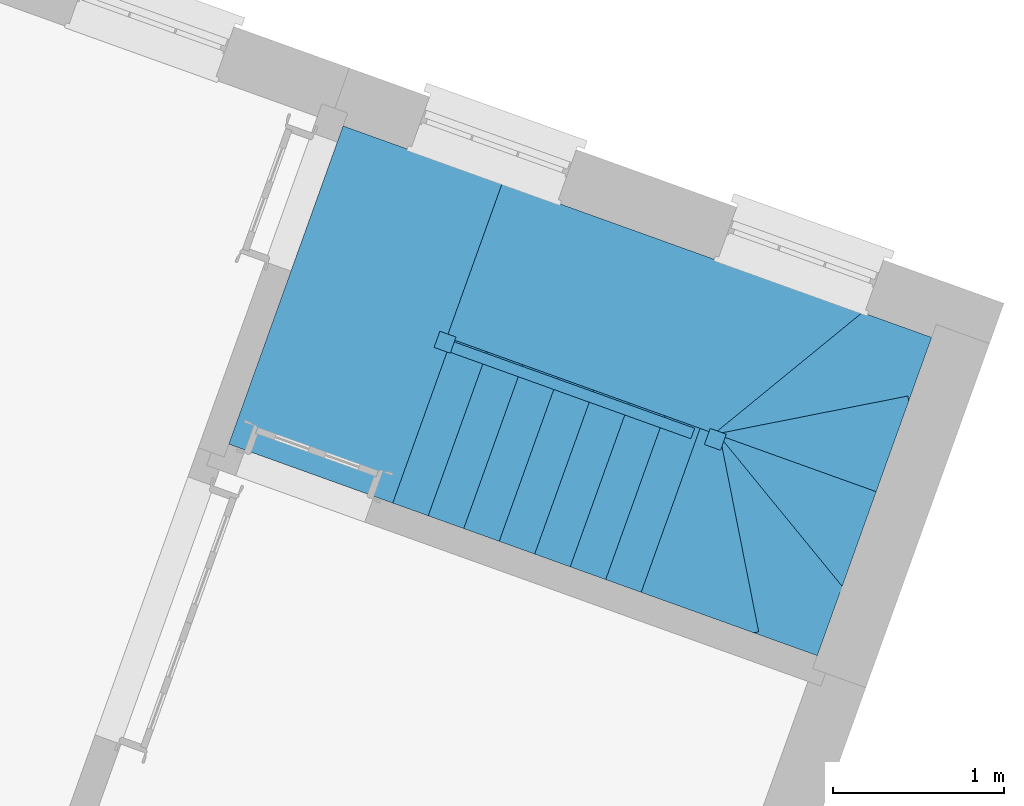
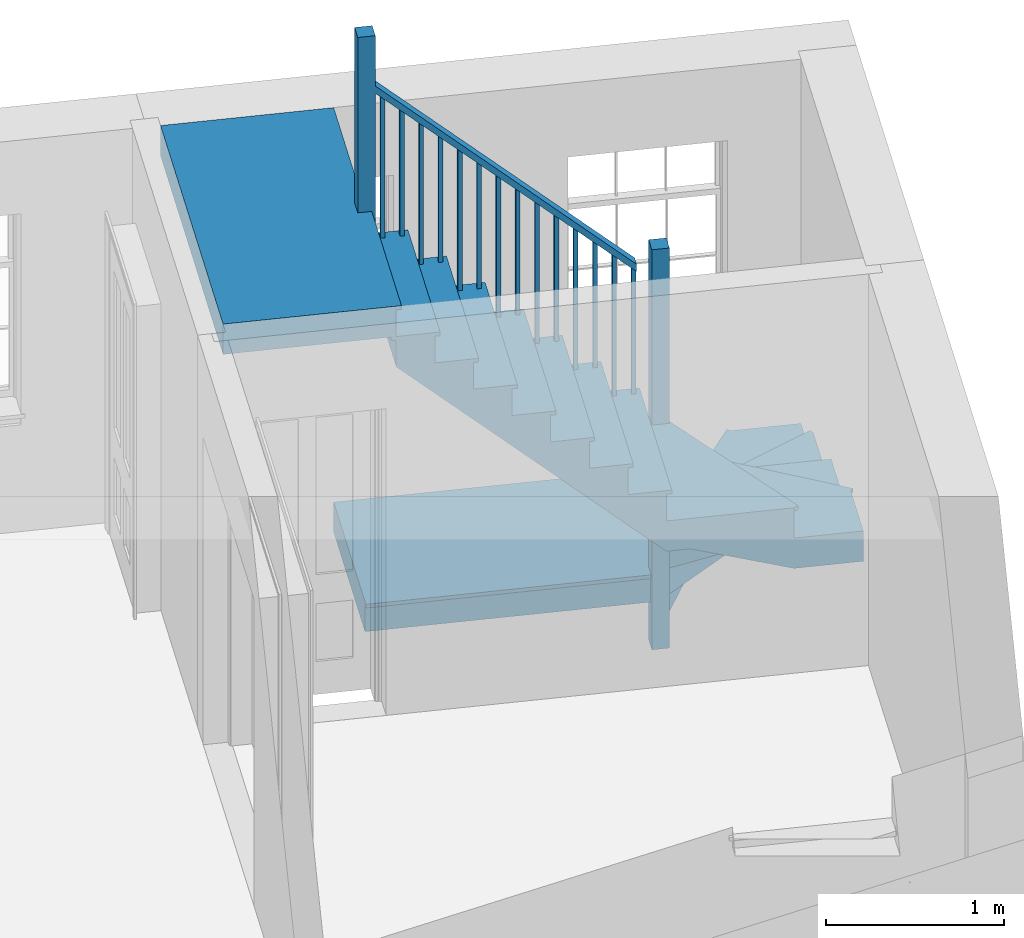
# One storey, part 4 of 4: 1 stair.
"""IFC4 building model written with IfcOpenShell, lengths in metres."""

from ifc_helpers import new_model, si_unit, frame, origin, origin_with_axes, place, context, subcontext, project, spatial, faceted_brep, element, save


model = new_model("IFC4")

# Units and contexts
model_context = context("Model", 3, world=origin_with_axes())
body_context = subcontext(model_context, "Body", "Model", "MODEL_VIEW")
ifc_project = project(units=[si_unit("PLANEANGLEUNIT", "RADIAN"), si_unit("MASSUNIT", "GRAM", prefix="KILO"), si_unit("FORCEUNIT", "NEWTON", prefix="KILO"), si_unit("LENGTHUNIT", "METRE"), si_unit("AREAUNIT", "SQUARE_METRE"), si_unit("VOLUMEUNIT", "CUBIC_METRE")], contexts=[model_context, model_context])

# Sites, building, storey
site_1_placement = place(None, origin_with_axes())
site_1 = spatial("IfcSite", under=ifc_project, at=site_1_placement, Name="Tamar")
site_2_placement = place(site_1_placement, origin_with_axes())
site_2 = spatial("IfcSite", under=site_1, at=site_2_placement, Name="Site plot-21", CompositionType="ELEMENT")
building_placement = place(None, origin_with_axes())
building = spatial("IfcBuilding", under=site_2, at=building_placement, Name="Building plot-21", CompositionType="ELEMENT")
storey_placement = place(None, frame((0.0, 0.0, 29.6), z_axis=(0.0, 0.0, 1.0), x_axis=(1.0, 0.0, 0.0)))
storey = spatial("IfcBuildingStorey", under=building, at=storey_placement, Name="plot-21 1", CompositionType="ELEMENT", Elevation=29.6)

# Stair
stair_placement = place(None, origin())
element("IfcStair", 1, at=stair_placement, inside=storey, Name="Stair", PredefinedType="NOTDEFINED", context=body_context, shape_type="Brep", body=[
    faceted_brep([(259.464739, 284.843721, 32.092308), (259.131186, 283.915466, 32.092308), (259.338225, 283.84107, 32.092308), (259.671778, 284.769324, 32.092308), (259.671778, 284.769324, 31.676923), (259.338225, 283.84107, 31.676923), (259.131186, 283.915466, 31.884615), (259.464739, 284.843721, 31.884615)], [[[0, 1, 2, 3]], [[4, 5, 6, 7]], [[7, 6, 1, 0]], [[1, 6, 5, 2]], [[5, 4, 3, 2]], [[3, 4, 7, 0]]]),
    faceted_brep([(259.338225, 283.84107, 32.067308), (259.366457, 283.830925, 32.067308), (259.338225, 283.84107, 32.092308), (259.102953, 283.925611, 32.067308), (259.131186, 283.915466, 32.067308), (259.131186, 283.915466, 32.092308), (259.366457, 283.830925, 32.092308), (259.102953, 283.925611, 32.092308), (259.710155, 284.787412, 32.092308), (259.671778, 284.769324, 32.092308), (259.671778, 284.769324, 32.067308), (259.710155, 284.787412, 32.067308), (259.446651, 284.882098, 32.092308), (259.464739, 284.843721, 32.092308), (259.464739, 284.843721, 32.067308), (259.446651, 284.882098, 32.067308)], [[[0, 1, 2]], [[3, 4, 5]], [[1, 6, 2]], [[7, 3, 5]], [[2, 6, 8, 9]], [[0, 2, 9, 10]], [[1, 0, 10, 11]], [[6, 1, 11, 8]], [[9, 8, 12, 13]], [[10, 9, 13, 14]], [[11, 10, 14, 15]], [[8, 11, 15, 12]], [[13, 12, 7, 5]], [[14, 13, 5, 4]], [[15, 14, 4, 3]], [[12, 15, 3, 7]]]),
    faceted_brep([(259.671778, 284.769324, 32.992308), (259.648251, 284.777779, 32.992308), (259.639796, 284.754251, 32.992308), (259.663324, 284.745797, 32.992308), (259.663324, 284.745797, 32.092308), (259.639796, 284.754251, 32.092308), (259.648251, 284.777779, 32.092308), (259.671778, 284.769324, 32.092308)], [[[0, 1, 2, 3]], [[4, 5, 6, 7]], [[7, 6, 1, 0]], [[6, 5, 2, 1]], [[5, 4, 3, 2]], [[4, 7, 0, 3]]]),
    faceted_brep([(259.568258, 284.806522, 33.096154), (259.544731, 284.814977, 33.096154), (259.536277, 284.791449, 33.096154), (259.559804, 284.782995, 33.096154), (259.559804, 284.782995, 32.092308), (259.536277, 284.791449, 32.092308), (259.544731, 284.814977, 32.092308), (259.568258, 284.806522, 32.092308)], [[[0, 1, 2, 3]], [[4, 5, 6, 7]], [[7, 6, 1, 0]], [[6, 5, 2, 1]], [[5, 4, 3, 2]], [[4, 7, 0, 3]]]),
    faceted_brep([(259.65656, 284.726975, 32.942308), (259.678541, 284.788146, 32.942308), (259.678541, 284.788146, 32.992308), (259.65656, 284.726975, 32.992308), (259.471502, 284.862542, 33.15), (259.449521, 284.801372, 33.15), (259.449521, 284.801372, 33.2), (259.471502, 284.862542, 33.2)], [[[0, 1, 2, 3]], [[4, 5, 6, 7]], [[0, 5, 4, 1]], [[3, 2, 7, 6]], [[0, 3, 6, 5]], [[2, 1, 4, 7]]]),
    faceted_brep([(259.671778, 284.769324, 31.884615), (259.338225, 283.84107, 31.884615), (259.545264, 283.766674, 31.884615), (259.878817, 284.694928, 31.884615), (259.878817, 284.694928, 31.469231), (259.545264, 283.766674, 31.469231), (259.338225, 283.84107, 31.676923), (259.671778, 284.769324, 31.676923)], [[[0, 1, 2, 3]], [[4, 5, 6, 7]], [[7, 6, 1, 0]], [[1, 6, 5, 2]], [[5, 4, 3, 2]], [[3, 4, 7, 0]]]),
    faceted_brep([(259.573497, 283.756529, 31.859615), (259.573497, 283.756529, 31.884615), (259.545264, 283.766674, 31.859615), (259.309992, 283.851215, 31.884615), (259.309992, 283.851215, 31.859615), (259.338225, 283.84107, 31.859615), (259.545264, 283.766674, 31.884615), (259.338225, 283.84107, 31.884615), (259.917194, 284.713016, 31.884615), (259.878817, 284.694928, 31.884615), (259.878817, 284.694928, 31.859615), (259.917194, 284.713016, 31.859615), (259.65369, 284.807702, 31.884615), (259.671778, 284.769324, 31.884615), (259.671778, 284.769324, 31.859615), (259.65369, 284.807702, 31.859615)], [[[0, 1, 2]], [[3, 4, 5]], [[2, 1, 6]], [[3, 5, 7]], [[6, 1, 8, 9]], [[2, 6, 9, 10]], [[0, 2, 10, 11]], [[1, 0, 11, 8]], [[9, 8, 12, 13]], [[10, 9, 13, 14]], [[11, 10, 14, 15]], [[8, 11, 15, 12]], [[13, 12, 3, 7]], [[14, 13, 7, 5]], [[15, 14, 5, 4]], [[12, 15, 4, 3]]]),
    faceted_brep([(259.878817, 284.694928, 32.784615), (259.85529, 284.703382, 32.784615), (259.846836, 284.679855, 32.784615), (259.870363, 284.671401, 32.784615), (259.870363, 284.671401, 31.884615), (259.846836, 284.679855, 31.884615), (259.85529, 284.703382, 31.884615), (259.878817, 284.694928, 31.884615)], [[[0, 1, 2, 3]], [[4, 5, 6, 7]], [[7, 6, 1, 0]], [[6, 5, 2, 1]], [[5, 4, 3, 2]], [[4, 7, 0, 3]]]),
    faceted_brep([(259.775297, 284.732126, 32.888462), (259.75177, 284.74058, 32.888462), (259.743316, 284.717053, 32.888462), (259.766843, 284.708599, 32.888462), (259.766843, 284.708599, 31.884615), (259.743316, 284.717053, 31.884615), (259.75177, 284.74058, 31.884615), (259.775297, 284.732126, 31.884615)], [[[0, 1, 2, 3]], [[4, 5, 6, 7]], [[7, 6, 1, 0]], [[6, 5, 2, 1]], [[5, 4, 3, 2]], [[4, 7, 0, 3]]]),
    faceted_brep([(259.8636, 284.652579, 32.734615), (259.88558, 284.71375, 32.734615), (259.88558, 284.71375, 32.784615), (259.8636, 284.652579, 32.784615), (259.678541, 284.788146, 32.942308), (259.65656, 284.726975, 32.942308), (259.65656, 284.726975, 32.992308), (259.678541, 284.788146, 32.992308)], [[[0, 1, 2, 3]], [[4, 5, 6, 7]], [[0, 5, 4, 1]], [[3, 2, 7, 6]], [[0, 3, 6, 5]], [[2, 1, 4, 7]]]),
    faceted_brep([(259.878817, 284.694928, 31.676923), (259.545264, 283.766674, 31.676923), (259.752303, 283.692277, 31.676923), (260.085856, 284.620532, 31.676923), (260.085856, 284.620532, 31.261538), (259.752303, 283.692277, 31.261538), (259.545264, 283.766674, 31.469231), (259.878817, 284.694928, 31.469231)], [[[0, 1, 2, 3]], [[4, 5, 6, 7]], [[7, 6, 1, 0]], [[1, 6, 5, 2]], [[5, 4, 3, 2]], [[3, 4, 7, 0]]]),
    faceted_brep([(259.752303, 283.692277, 31.651923), (259.780536, 283.682133, 31.651923), (259.752303, 283.692277, 31.676923), (259.517031, 283.776818, 31.651923), (259.545264, 283.766674, 31.651923), (259.545264, 283.766674, 31.676923), (259.780536, 283.682133, 31.676923), (259.517031, 283.776818, 31.676923), (260.124234, 284.63862, 31.676923), (260.085856, 284.620532, 31.676923), (260.085856, 284.620532, 31.651923), (260.124234, 284.63862, 31.651923), (259.860729, 284.733306, 31.676923), (259.878817, 284.694928, 31.676923), (259.878817, 284.694928, 31.651923), (259.860729, 284.733306, 31.651923)], [[[0, 1, 2]], [[3, 4, 5]], [[1, 6, 2]], [[7, 3, 5]], [[2, 6, 8, 9]], [[0, 2, 9, 10]], [[1, 0, 10, 11]], [[6, 1, 11, 8]], [[9, 8, 12, 13]], [[10, 9, 13, 14]], [[11, 10, 14, 15]], [[8, 11, 15, 12]], [[13, 12, 7, 5]], [[14, 13, 5, 4]], [[15, 14, 4, 3]], [[12, 15, 3, 7]]]),
    faceted_brep([(260.085856, 284.620532, 32.576923), (260.062329, 284.628986, 32.576923), (260.053875, 284.605459, 32.576923), (260.077402, 284.597005, 32.576923), (260.077402, 284.597005, 31.676923), (260.053875, 284.605459, 31.676923), (260.062329, 284.628986, 31.676923), (260.085856, 284.620532, 31.676923)], [[[0, 1, 2, 3]], [[4, 5, 6, 7]], [[7, 6, 1, 0]], [[6, 5, 2, 1]], [[5, 4, 3, 2]], [[4, 7, 0, 3]]]),
    faceted_brep([(259.982337, 284.65773, 32.680769), (259.958809, 284.666184, 32.680769), (259.950355, 284.642657, 32.680769), (259.973882, 284.634203, 32.680769), (259.973882, 284.634203, 31.676923), (259.950355, 284.642657, 31.676923), (259.958809, 284.666184, 31.676923), (259.982337, 284.65773, 31.676923)], [[[0, 1, 2, 3]], [[4, 5, 6, 7]], [[7, 6, 1, 0]], [[6, 5, 2, 1]], [[5, 4, 3, 2]], [[4, 7, 0, 3]]]),
    faceted_brep([(260.070639, 284.578183, 32.526923), (260.092619, 284.639354, 32.526923), (260.092619, 284.639354, 32.576923), (260.070639, 284.578183, 32.576923), (259.88558, 284.71375, 32.734615), (259.8636, 284.652579, 32.734615), (259.8636, 284.652579, 32.784615), (259.88558, 284.71375, 32.784615)], [[[0, 1, 2, 3]], [[4, 5, 6, 7]], [[0, 5, 4, 1]], [[3, 2, 7, 6]], [[0, 3, 6, 5]], [[2, 1, 4, 7]]]),
    faceted_brep([(260.085856, 284.620532, 31.469231), (259.752303, 283.692277, 31.469231), (259.959342, 283.617881, 31.469231), (260.292895, 284.546136, 31.469231), (260.292895, 284.546136, 31.053846), (259.959342, 283.617881, 31.053846), (259.752303, 283.692277, 31.261538), (260.085856, 284.620532, 31.261538)], [[[0, 1, 2, 3]], [[4, 5, 6, 7]], [[7, 6, 1, 0]], [[1, 6, 5, 2]], [[5, 4, 3, 2]], [[3, 4, 7, 0]]]),
    faceted_brep([(259.959342, 283.617881, 31.444231), (259.987575, 283.607736, 31.444231), (259.959342, 283.617881, 31.469231), (259.724071, 283.702422, 31.444231), (259.752303, 283.692277, 31.444231), (259.752303, 283.692277, 31.469231), (259.987575, 283.607736, 31.469231), (259.724071, 283.702422, 31.469231), (260.331273, 284.564224, 31.469231), (260.292895, 284.546136, 31.469231), (260.292895, 284.546136, 31.444231), (260.331273, 284.564224, 31.444231), (260.067768, 284.65891, 31.469231), (260.085856, 284.620532, 31.469231), (260.085856, 284.620532, 31.444231), (260.067768, 284.65891, 31.444231)], [[[0, 1, 2]], [[3, 4, 5]], [[1, 6, 2]], [[7, 3, 5]], [[2, 6, 8, 9]], [[0, 2, 9, 10]], [[1, 0, 10, 11]], [[6, 1, 11, 8]], [[9, 8, 12, 13]], [[10, 9, 13, 14]], [[11, 10, 14, 15]], [[8, 11, 15, 12]], [[13, 12, 7, 5]], [[14, 13, 5, 4]], [[15, 14, 4, 3]], [[12, 15, 3, 7]]]),
    faceted_brep([(260.292895, 284.546136, 32.369231), (260.269368, 284.55459, 32.369231), (260.260914, 284.531063, 32.369231), (260.284441, 284.522609, 32.369231), (260.284441, 284.522609, 31.469231), (260.260914, 284.531063, 31.469231), (260.269368, 284.55459, 31.469231), (260.292895, 284.546136, 31.469231)], [[[0, 1, 2, 3]], [[4, 5, 6, 7]], [[7, 6, 1, 0]], [[6, 5, 2, 1]], [[5, 4, 3, 2]], [[4, 7, 0, 3]]]),
    faceted_brep([(260.189376, 284.583334, 32.473077), (260.165849, 284.591788, 32.473077), (260.157394, 284.568261, 32.473077), (260.180922, 284.559807, 32.473077), (260.180922, 284.559807, 31.469231), (260.157394, 284.568261, 31.469231), (260.165849, 284.591788, 31.469231), (260.189376, 284.583334, 31.469231)], [[[0, 1, 2, 3]], [[4, 5, 6, 7]], [[7, 6, 1, 0]], [[6, 5, 2, 1]], [[5, 4, 3, 2]], [[4, 7, 0, 3]]]),
    faceted_brep([(260.277678, 284.503787, 32.319231), (260.299659, 284.564958, 32.319231), (260.299659, 284.564958, 32.369231), (260.277678, 284.503787, 32.369231), (260.092619, 284.639354, 32.526923), (260.070639, 284.578183, 32.526923), (260.070639, 284.578183, 32.576923), (260.092619, 284.639354, 32.576923)], [[[0, 1, 2, 3]], [[4, 5, 6, 7]], [[0, 5, 4, 1]], [[3, 2, 7, 6]], [[0, 3, 6, 5]], [[2, 1, 4, 7]]]),
    faceted_brep([(260.292895, 284.546136, 31.261538), (259.959342, 283.617881, 31.261538), (260.166381, 283.543485, 31.261538), (260.499934, 284.47174, 31.261538), (260.499934, 284.47174, 30.846154), (260.166381, 283.543485, 30.846154), (259.959342, 283.617881, 31.053846), (260.292895, 284.546136, 31.053846)], [[[0, 1, 2, 3]], [[4, 5, 6, 7]], [[7, 6, 1, 0]], [[1, 6, 5, 2]], [[5, 4, 3, 2]], [[3, 4, 7, 0]]]),
    faceted_brep([(260.194614, 283.53334, 31.236538), (260.194614, 283.53334, 31.261538), (260.166381, 283.543485, 31.236538), (259.93111, 283.628026, 31.261538), (259.93111, 283.628026, 31.236538), (259.959342, 283.617881, 31.236538), (260.166381, 283.543485, 31.261538), (259.959342, 283.617881, 31.261538), (260.538312, 284.489828, 31.261538), (260.499934, 284.47174, 31.261538), (260.499934, 284.47174, 31.236538), (260.538312, 284.489828, 31.236538), (260.274808, 284.584514, 31.261538), (260.292895, 284.546136, 31.261538), (260.292895, 284.546136, 31.236538), (260.274808, 284.584514, 31.236538)], [[[0, 1, 2]], [[3, 4, 5]], [[2, 1, 6]], [[3, 5, 7]], [[6, 1, 8, 9]], [[2, 6, 9, 10]], [[0, 2, 10, 11]], [[1, 0, 11, 8]], [[9, 8, 12, 13]], [[10, 9, 13, 14]], [[11, 10, 14, 15]], [[8, 11, 15, 12]], [[13, 12, 3, 7]], [[14, 13, 7, 5]], [[15, 14, 5, 4]], [[12, 15, 4, 3]]]),
    faceted_brep([(260.499934, 284.47174, 32.161538), (260.476407, 284.480194, 32.161538), (260.467953, 284.456667, 32.161538), (260.49148, 284.448213, 32.161538), (260.49148, 284.448213, 31.261538), (260.467953, 284.456667, 31.261538), (260.476407, 284.480194, 31.261538), (260.499934, 284.47174, 31.261538)], [[[0, 1, 2, 3]], [[4, 5, 6, 7]], [[7, 6, 1, 0]], [[6, 5, 2, 1]], [[5, 4, 3, 2]], [[4, 7, 0, 3]]]),
    faceted_brep([(260.396415, 284.508938, 32.265385), (260.372888, 284.517392, 32.265385), (260.364434, 284.493865, 32.265385), (260.387961, 284.485411, 32.265385), (260.387961, 284.485411, 31.261538), (260.364434, 284.493865, 31.261538), (260.372888, 284.517392, 31.261538), (260.396415, 284.508938, 31.261538)], [[[0, 1, 2, 3]], [[4, 5, 6, 7]], [[7, 6, 1, 0]], [[6, 5, 2, 1]], [[5, 4, 3, 2]], [[4, 7, 0, 3]]]),
    faceted_brep([(260.484717, 284.429391, 32.111538), (260.506698, 284.490562, 32.111538), (260.506698, 284.490562, 32.161538), (260.484717, 284.429391, 32.161538), (260.299659, 284.564958, 32.319231), (260.277678, 284.503787, 32.319231), (260.277678, 284.503787, 32.369231), (260.299659, 284.564958, 32.369231)], [[[0, 1, 2, 3]], [[4, 5, 6, 7]], [[0, 5, 4, 1]], [[3, 2, 7, 6]], [[0, 3, 6, 5]], [[2, 1, 4, 7]]]),
    faceted_brep([(260.499934, 284.47174, 31.053846), (260.166381, 283.543485, 31.053846), (260.373421, 283.469089, 31.053846), (260.706974, 284.397344, 31.053846), (260.706974, 284.397344, 30.638462), (260.373421, 283.469089, 30.638462), (260.166381, 283.543485, 30.846154), (260.499934, 284.47174, 30.846154)], [[[0, 1, 2, 3]], [[4, 5, 6, 7]], [[7, 6, 1, 0]], [[1, 6, 5, 2]], [[5, 4, 3, 2]], [[3, 4, 7, 0]]]),
    faceted_brep([(260.401653, 283.458944, 31.028846), (260.401653, 283.458944, 31.053846), (260.373421, 283.469089, 31.028846), (260.138149, 283.55363, 31.053846), (260.138149, 283.55363, 31.028846), (260.166381, 283.543485, 31.028846), (260.373421, 283.469089, 31.053846), (260.166381, 283.543485, 31.053846), (260.745351, 284.415432, 31.053846), (260.706974, 284.397344, 31.053846), (260.706974, 284.397344, 31.028846), (260.745351, 284.415432, 31.028846), (260.481847, 284.510118, 31.053846), (260.499934, 284.47174, 31.053846), (260.499934, 284.47174, 31.028846), (260.481847, 284.510118, 31.028846)], [[[0, 1, 2]], [[3, 4, 5]], [[2, 1, 6]], [[3, 5, 7]], [[6, 1, 8, 9]], [[2, 6, 9, 10]], [[0, 2, 10, 11]], [[1, 0, 11, 8]], [[9, 8, 12, 13]], [[10, 9, 13, 14]], [[11, 10, 14, 15]], [[8, 11, 15, 12]], [[13, 12, 3, 7]], [[14, 13, 7, 5]], [[15, 14, 5, 4]], [[12, 15, 4, 3]]]),
    faceted_brep([(260.706974, 284.397344, 31.953846), (260.683446, 284.405798, 31.953846), (260.674992, 284.382271, 31.953846), (260.69852, 284.373817, 31.953846), (260.69852, 284.373817, 31.053846), (260.674992, 284.382271, 31.053846), (260.683446, 284.405798, 31.053846), (260.706974, 284.397344, 31.053846)], [[[0, 1, 2, 3]], [[4, 5, 6, 7]], [[7, 6, 1, 0]], [[6, 5, 2, 1]], [[5, 4, 3, 2]], [[4, 7, 0, 3]]]),
    faceted_brep([(260.603454, 284.434542, 32.057692), (260.579927, 284.442996, 32.057692), (260.571473, 284.419469, 32.057692), (260.595, 284.411015, 32.057692), (260.595, 284.411015, 31.053846), (260.571473, 284.419469, 31.053846), (260.579927, 284.442996, 31.053846), (260.603454, 284.434542, 31.053846)], [[[0, 1, 2, 3]], [[4, 5, 6, 7]], [[7, 6, 1, 0]], [[6, 5, 2, 1]], [[5, 4, 3, 2]], [[4, 7, 0, 3]]]),
    faceted_brep([(260.691756, 284.354995, 31.903846), (260.713737, 284.416166, 31.903846), (260.713737, 284.416166, 31.953846), (260.691756, 284.354995, 31.953846), (260.506698, 284.490562, 32.111538), (260.484717, 284.429391, 32.111538), (260.484717, 284.429391, 32.161538), (260.506698, 284.490562, 32.161538)], [[[0, 1, 2, 3]], [[4, 5, 6, 7]], [[0, 5, 4, 1]], [[3, 2, 7, 6]], [[0, 3, 6, 5]], [[2, 1, 4, 7]]]),
    faceted_brep([(260.706974, 284.397344, 30.846154), (260.373421, 283.469089, 30.846154), (260.58046, 283.394693, 30.846154), (260.914013, 284.322948, 30.846154), (260.914013, 284.322948, 30.430769), (260.58046, 283.394693, 30.430769), (260.373421, 283.469089, 30.638462), (260.706974, 284.397344, 30.638462)], [[[0, 1, 2, 3]], [[4, 5, 6, 7]], [[7, 6, 1, 0]], [[1, 6, 5, 2]], [[5, 4, 3, 2]], [[3, 4, 7, 0]]]),
    faceted_brep([(260.58046, 283.394693, 30.821154), (260.608692, 283.384548, 30.821154), (260.58046, 283.394693, 30.846154), (260.345188, 283.479234, 30.821154), (260.373421, 283.469089, 30.821154), (260.373421, 283.469089, 30.846154), (260.608692, 283.384548, 30.846154), (260.345188, 283.479234, 30.846154), (260.95239, 284.341036, 30.846154), (260.914013, 284.322948, 30.846154), (260.914013, 284.322948, 30.821154), (260.95239, 284.341036, 30.821154), (260.688886, 284.435721, 30.846154), (260.706974, 284.397344, 30.846154), (260.706974, 284.397344, 30.821154), (260.688886, 284.435721, 30.821154)], [[[0, 1, 2]], [[3, 4, 5]], [[1, 6, 2]], [[7, 3, 5]], [[2, 6, 8, 9]], [[0, 2, 9, 10]], [[1, 0, 10, 11]], [[6, 1, 11, 8]], [[9, 8, 12, 13]], [[10, 9, 13, 14]], [[11, 10, 14, 15]], [[8, 11, 15, 12]], [[13, 12, 7, 5]], [[14, 13, 5, 4]], [[15, 14, 4, 3]], [[12, 15, 3, 7]]]),
    faceted_brep([(260.914013, 284.322948, 31.746154), (260.890486, 284.331402, 31.746154), (260.882032, 284.307875, 31.746154), (260.905559, 284.299421, 31.746154), (260.905559, 284.299421, 30.846154), (260.882032, 284.307875, 30.846154), (260.890486, 284.331402, 30.846154), (260.914013, 284.322948, 30.846154)], [[[0, 1, 2, 3]], [[4, 5, 6, 7]], [[7, 6, 1, 0]], [[6, 5, 2, 1]], [[5, 4, 3, 2]], [[4, 7, 0, 3]]]),
    faceted_brep([(260.810493, 284.360146, 31.85), (260.786966, 284.3686, 31.85), (260.778512, 284.345073, 31.85), (260.802039, 284.336619, 31.85), (260.802039, 284.336619, 30.846154), (260.778512, 284.345073, 30.846154), (260.786966, 284.3686, 30.846154), (260.810493, 284.360146, 30.846154)], [[[0, 1, 2, 3]], [[4, 5, 6, 7]], [[7, 6, 1, 0]], [[6, 5, 2, 1]], [[5, 4, 3, 2]], [[4, 7, 0, 3]]]),
    faceted_brep([(260.898795, 284.280599, 31.696154), (260.920776, 284.34177, 31.696154), (260.920776, 284.34177, 31.746154), (260.898795, 284.280599, 31.746154), (260.713737, 284.416166, 31.903846), (260.691756, 284.354995, 31.903846), (260.691756, 284.354995, 31.953846), (260.713737, 284.416166, 31.953846)], [[[0, 1, 2, 3]], [[4, 5, 6, 7]], [[0, 5, 4, 1]], [[3, 2, 7, 6]], [[0, 3, 6, 5]], [[2, 1, 4, 7]]]),
    faceted_brep([(260.914013, 284.322948, 30.638462), (260.58046, 283.394693, 30.638462), (260.707975, 283.348873, 30.638462), (261.041528, 284.277128, 30.638462), (261.041528, 284.277128, 30.430769), (260.707975, 283.348873, 30.430769), (260.58046, 283.394693, 30.430769), (260.914013, 284.322948, 30.430769)], [[[0, 1, 2, 3]], [[4, 5, 6, 7]], [[7, 6, 1, 0]], [[6, 5, 2, 1]], [[5, 4, 3, 2]], [[4, 7, 0, 3]]]),
    faceted_brep([(261.041528, 284.277128, 30.613462), (261.051672, 284.30536, 30.613462), (261.041528, 284.277128, 30.638462), (260.924158, 284.35118, 30.613462), (260.914013, 284.322948, 30.613462), (260.914013, 284.322948, 30.638462), (261.051672, 284.30536, 30.638462), (260.924158, 284.35118, 30.638462)], [[[0, 1, 2]], [[3, 4, 5]], [[1, 6, 2]], [[7, 3, 5]], [[2, 6, 7, 5]], [[0, 2, 5, 4]], [[1, 0, 4, 3]], [[6, 1, 3, 7]]]),
    faceted_brep([(261.10549, 284.307274, 31.838462), (261.011381, 284.34109, 31.838462), (260.977565, 284.246981, 31.838462), (261.071674, 284.213165, 31.838462), (261.071674, 284.213165, 30.638462), (260.977565, 284.246981, 30.638462), (261.011381, 284.34109, 30.638462), (261.10549, 284.307274, 30.638462)], [[[0, 1, 2, 3]], [[4, 5, 6, 7]], [[7, 6, 1, 0]], [[6, 5, 2, 1]], [[5, 4, 3, 2]], [[4, 7, 0, 3]]]),
    faceted_brep([(260.707975, 283.348873, 30.638462), (261.264927, 283.148741, 30.638462), (261.041528, 284.277128, 30.638462), (261.041528, 284.277128, 30.223077), (261.264927, 283.148741, 30.223077), (260.707975, 283.348873, 30.430769)], [[[0, 1, 2]], [[3, 4, 5]], [[0, 5, 4, 1]], [[4, 3, 2, 1]], [[2, 3, 5, 0]]]),
    faceted_brep([(261.294356, 283.154567, 30.613462), (261.294356, 283.154567, 30.638462), (261.264927, 283.148741, 30.613462), (261.070956, 284.282954, 30.638462), (261.070956, 284.282954, 30.613462), (261.041528, 284.277128, 30.613462), (261.264927, 283.148741, 30.638462), (261.041528, 284.277128, 30.638462)], [[[0, 1, 2]], [[3, 4, 5]], [[2, 1, 6]], [[3, 5, 7]], [[6, 1, 3, 7]], [[2, 6, 7, 5]], [[0, 2, 5, 4]], [[1, 0, 4, 3]]]),
    faceted_brep([(261.264927, 283.148741, 30.430769), (261.636229, 283.01532, 30.430769), (261.769651, 283.386622, 30.430769), (261.041528, 284.277128, 30.430769), (261.041528, 284.277128, 30.015385), (261.769651, 283.386622, 30.015385), (261.636229, 283.01532, 30.223077), (261.264927, 283.148741, 30.223077)], [[[0, 1, 2, 3]], [[4, 5, 6, 7]], [[7, 6, 1, 0]], [[1, 6, 5, 2]], [[5, 4, 3, 2]], [[3, 4, 7, 0]]]),
    faceted_brep([(261.769651, 283.386622, 30.405769), (261.792875, 283.405611, 30.405769), (261.769651, 283.386622, 30.430769), (261.064752, 284.296117, 30.405769), (261.041528, 284.277128, 30.405769), (261.041528, 284.277128, 30.430769), (261.792875, 283.405611, 30.430769), (261.064752, 284.296117, 30.430769)], [[[0, 1, 2]], [[3, 4, 5]], [[1, 6, 2]], [[7, 3, 5]], [[2, 6, 7, 5]], [[0, 2, 5, 4]], [[1, 0, 4, 3]], [[6, 1, 3, 7]]]),
    faceted_brep([(261.769651, 283.386622, 30.223077), (261.969782, 283.943575, 30.223077), (261.041528, 284.277128, 30.223077), (261.041528, 284.277128, 29.807692), (261.969782, 283.943575, 29.807692), (261.769651, 283.386622, 30.015385)], [[[0, 1, 2]], [[3, 4, 5]], [[0, 5, 4, 1]], [[4, 3, 2, 1]], [[2, 3, 5, 0]]]),
    faceted_brep([(261.969782, 283.943575, 30.198077), (261.979927, 283.971807, 30.198077), (261.969782, 283.943575, 30.223077), (261.051672, 284.30536, 30.198077), (261.041528, 284.277128, 30.198077), (261.041528, 284.277128, 30.223077), (261.979927, 283.971807, 30.223077), (261.051672, 284.30536, 30.223077)], [[[0, 1, 2]], [[3, 4, 5]], [[1, 6, 2]], [[7, 3, 5]], [[2, 6, 7, 5]], [[0, 2, 5, 4]], [[1, 0, 4, 3]], [[6, 1, 3, 7]]]),
    faceted_brep([(261.10549, 284.307274, 30.638462), (261.011381, 284.34109, 30.638462), (260.977565, 284.246981, 30.638462), (261.071674, 284.213165, 30.638462), (261.071674, 284.213165, 29.723077), (260.977565, 284.246981, 29.723077), (261.011381, 284.34109, 29.723077), (261.10549, 284.307274, 29.723077)], [[[0, 1, 2, 3]], [[4, 5, 6, 7]], [[7, 6, 1, 0]], [[6, 5, 2, 1]], [[5, 4, 3, 2]], [[4, 7, 0, 3]]]),
    faceted_brep([(261.041528, 284.277128, 29.807692), (261.969782, 283.943575, 29.807692), (261.969782, 283.943575, 30.015385), (261.041528, 284.277128, 30.015385)], [[[0, 1, 2, 3]], [[1, 0, 3, 2]]]),
    faceted_brep([(261.069721, 284.266875, 29.990385), (261.069721, 284.266875, 30.015385), (261.041528, 284.277128, 29.990385), (261.041528, 284.277128, 30.015385)], [[[0, 1, 2]], [[1, 0, 2]], [[2, 1, 3]], [[1, 2, 3]]]),
    faceted_brep([(261.011381, 284.34109, 31.215385), (260.977565, 284.246981, 31.215385), (261.071674, 284.213165, 31.215385), (261.10549, 284.307274, 31.215385), (261.10549, 284.307274, 30.015385), (261.071674, 284.213165, 30.015385), (260.977565, 284.246981, 30.015385), (261.011381, 284.34109, 30.015385)], [[[0, 1, 2, 3]], [[4, 5, 6, 7]], [[7, 6, 1, 0]], [[6, 5, 2, 1]], [[5, 4, 3, 2]], [[4, 7, 0, 3]]]),
    faceted_brep([(261.969782, 283.943575, 30.015385), (262.169914, 284.500527, 30.015385), (261.041528, 284.277128, 30.015385), (261.041528, 284.277128, 29.6), (262.169914, 284.500527, 29.6), (261.969782, 283.943575, 29.807692)], [[[0, 1, 2]], [[3, 4, 5]], [[0, 5, 4, 1]], [[4, 3, 2, 1]], [[2, 3, 5, 0]]]),
    faceted_brep([(262.164088, 284.529956, 29.990385), (262.164088, 284.529956, 30.015385), (262.169914, 284.500527, 29.990385), (261.035701, 284.306556, 30.015385), (261.035701, 284.306556, 29.990385), (261.041528, 284.277128, 29.990385), (262.169914, 284.500527, 30.015385), (261.041528, 284.277128, 30.015385)], [[[0, 1, 2]], [[3, 4, 5]], [[2, 1, 6]], [[3, 5, 7]], [[6, 1, 3, 7]], [[2, 6, 7, 5]], [[0, 2, 5, 4]], [[1, 0, 4, 3]]]),
    faceted_brep([(262.169914, 284.500527, 29.807692), (262.303335, 284.871829, 29.807692), (261.932033, 285.005251, 29.807692), (261.041528, 284.277128, 29.807692), (261.041528, 284.277128, 29.392308), (261.932033, 285.005251, 29.392308), (262.303335, 284.871829, 29.6), (262.169914, 284.500527, 29.6)], [[[0, 1, 2, 3]], [[4, 5, 6, 7]], [[7, 6, 1, 0]], [[1, 6, 5, 2]], [[5, 4, 3, 2]], [[3, 4, 7, 0]]]),
    faceted_brep([(261.913044, 285.028475, 29.782692), (261.913044, 285.028475, 29.807692), (261.932033, 285.005251, 29.782692), (261.022538, 284.300352, 29.807692), (261.022538, 284.300352, 29.782692), (261.041528, 284.277128, 29.782692), (261.932033, 285.005251, 29.807692), (261.041528, 284.277128, 29.807692)], [[[0, 1, 2]], [[3, 4, 5]], [[2, 1, 6]], [[3, 5, 7]], [[6, 1, 3, 7]], [[2, 6, 7, 5]], [[0, 2, 5, 4]], [[1, 0, 4, 3]]]),
    faceted_brep([(261.932033, 285.005251, 29.6), (261.375081, 285.205382, 29.6), (261.041528, 284.277128, 29.6), (261.041528, 284.277128, 29.184615), (261.375081, 285.205382, 29.184615), (261.932033, 285.005251, 29.392308)], [[[0, 1, 2]], [[3, 4, 5]], [[0, 5, 4, 1]], [[4, 3, 2, 1]], [[2, 3, 5, 0]]]),
    faceted_brep([(261.346848, 285.215527, 29.575), (261.346848, 285.215527, 29.6), (261.375081, 285.205382, 29.575), (261.013295, 284.287272, 29.6), (261.013295, 284.287272, 29.575), (261.041528, 284.277128, 29.575), (261.375081, 285.205382, 29.6), (261.041528, 284.277128, 29.6)], [[[0, 1, 2]], [[3, 4, 5]], [[2, 1, 6]], [[3, 5, 7]], [[6, 1, 3, 7]], [[2, 6, 7, 5]], [[0, 2, 5, 4]], [[1, 0, 4, 3]]]),
    faceted_brep([(261.011381, 284.34109, 30.015385), (260.977565, 284.246981, 30.015385), (261.071674, 284.213165, 30.015385), (261.10549, 284.307274, 30.015385), (261.10549, 284.307274, 29.1), (261.071674, 284.213165, 29.1), (260.977565, 284.246981, 29.1), (261.011381, 284.34109, 29.1)], [[[0, 1, 2, 3]], [[4, 5, 6, 7]], [[7, 6, 1, 0]], [[6, 5, 2, 1]], [[5, 4, 3, 2]], [[4, 7, 0, 3]]]),
    faceted_brep([(261.041528, 284.277128, 29.6), (261.375081, 285.205382, 29.6), (259.798292, 285.771975, 29.6), (259.464739, 284.843721, 29.6), (259.464739, 284.843721, 29.392308), (259.798292, 285.771975, 29.392308), (261.375081, 285.205382, 29.392308), (261.041528, 284.277128, 29.392308)], [[[0, 1, 2, 3]], [[4, 5, 6, 7]], [[7, 6, 1, 0]], [[6, 5, 2, 1]], [[5, 4, 3, 2]], [[4, 7, 0, 3]]]),
    faceted_brep([(259.454594, 284.815488, 29.575), (259.454594, 284.815488, 29.6), (259.464739, 284.843721, 29.575), (261.031383, 284.248895, 29.6), (261.031383, 284.248895, 29.575), (261.041528, 284.277128, 29.575), (259.464739, 284.843721, 29.6), (261.041528, 284.277128, 29.6)], [[[0, 1, 2]], [[3, 4, 5]], [[2, 1, 6]], [[3, 5, 7]], [[6, 1, 3, 7]], [[2, 6, 7, 5]], [[0, 2, 5, 4]], [[1, 0, 4, 3]]]),
    faceted_brep([(259.400776, 284.813574, 33.5), (259.494885, 284.779758, 33.5), (259.528701, 284.873867, 33.5), (259.434592, 284.907683, 33.5), (259.434592, 284.907683, 32.3), (259.528701, 284.873867, 32.3), (259.494885, 284.779758, 32.3), (259.400776, 284.813574, 32.3)], [[[0, 1, 2, 3]], [[4, 5, 6, 7]], [[7, 6, 1, 0]], [[6, 5, 2, 1]], [[5, 4, 3, 2]], [[4, 7, 0, 3]]]),
    faceted_brep([(259.464739, 284.843721, 32.3), (259.798292, 285.771975, 32.3), (258.870037, 286.105528, 32.3), (258.536484, 285.177273, 32.3), (258.536484, 285.177273, 32.092308), (258.870037, 286.105528, 32.092308), (259.798292, 285.771975, 32.092308), (259.464739, 284.843721, 32.092308)], [[[0, 1, 2, 3]], [[4, 5, 6, 7]], [[7, 6, 1, 0]], [[6, 5, 2, 1]], [[5, 4, 3, 2]], [[4, 7, 0, 3]]]),
    faceted_brep([(258.526339, 285.149041, 32.275), (258.526339, 285.149041, 32.3), (258.536484, 285.177273, 32.275), (259.454594, 284.815488, 32.3), (259.454594, 284.815488, 32.275), (259.464739, 284.843721, 32.275), (258.536484, 285.177273, 32.3), (259.464739, 284.843721, 32.3)], [[[0, 1, 2]], [[3, 4, 5]], [[2, 1, 6]], [[3, 5, 7]], [[6, 1, 3, 7]], [[2, 6, 7, 5]], [[0, 2, 5, 4]], [[1, 0, 4, 3]]]),
    faceted_brep([(259.400776, 284.813574, 32.3), (259.494885, 284.779758, 32.3), (259.528701, 284.873867, 32.3), (259.434592, 284.907683, 32.3), (259.434592, 284.907683, 31.8), (259.528701, 284.873867, 31.8), (259.494885, 284.779758, 31.8), (259.400776, 284.813574, 31.8)], [[[0, 1, 2, 3]], [[4, 5, 6, 7]], [[7, 6, 1, 0]], [[6, 5, 2, 1]], [[5, 4, 3, 2]], [[4, 7, 0, 3]]]),
    faceted_brep([(259.464739, 284.843721, 32.092308), (258.536484, 285.177273, 32.092308), (258.536484, 285.177273, 32.3), (259.464739, 284.843721, 32.3)], [[[0, 1, 2, 3]], [[1, 0, 3, 2]]]),
    faceted_brep([(259.464739, 284.843721, 32.275), (259.435893, 284.851962, 32.275), (259.464739, 284.843721, 32.3), (259.435893, 284.851962, 32.3)], [[[0, 1, 2]], [[1, 0, 2]], [[1, 3, 2]], [[3, 1, 2]]]),
    faceted_brep([(259.494885, 284.779758, 33.5), (259.528701, 284.873867, 33.5), (259.434592, 284.907683, 33.5), (259.400776, 284.813574, 33.5), (259.400776, 284.813574, 32.3), (259.434592, 284.907683, 32.3), (259.528701, 284.873867, 32.3), (259.494885, 284.779758, 32.3)], [[[0, 1, 2, 3]], [[4, 5, 6, 7]], [[7, 6, 1, 0]], [[6, 5, 2, 1]], [[5, 4, 3, 2]], [[4, 7, 0, 3]]]),
    faceted_brep([(259.464739, 284.843721, 32.3), (258.536484, 285.177273, 32.3), (258.202931, 284.249019, 32.3), (259.131186, 283.915466, 32.3), (259.131186, 283.915466, 32.092308), (258.202931, 284.249019, 32.092308), (258.536484, 285.177273, 32.092308), (259.464739, 284.843721, 32.092308)], [[[0, 1, 2, 3]], [[4, 5, 6, 7]], [[7, 6, 1, 0]], [[6, 5, 2, 1]], [[5, 4, 3, 2]], [[4, 7, 0, 3]]]),
    faceted_brep([(259.131186, 283.915466, 32.275), (259.159418, 283.905321, 32.275), (259.131186, 283.915466, 32.3), (259.492971, 284.833576, 32.275), (259.464739, 284.843721, 32.275), (259.464739, 284.843721, 32.3), (259.159418, 283.905321, 32.3), (259.492971, 284.833576, 32.3)], [[[0, 1, 2]], [[3, 4, 5]], [[1, 6, 2]], [[7, 3, 5]], [[2, 6, 7, 5]], [[0, 2, 5, 4]], [[1, 0, 4, 3]], [[6, 1, 3, 7]]]),
    faceted_brep([(259.494885, 284.779758, 32.3), (259.528701, 284.873867, 32.3), (259.434592, 284.907683, 32.3), (259.400776, 284.813574, 32.3), (259.400776, 284.813574, 31.8), (259.434592, 284.907683, 31.8), (259.528701, 284.873867, 31.8), (259.494885, 284.779758, 31.8)], [[[0, 1, 2, 3]], [[4, 5, 6, 7]], [[7, 6, 1, 0]], [[6, 5, 2, 1]], [[5, 4, 3, 2]], [[4, 7, 0, 3]]]),
])

save(model, "model.ifc")
